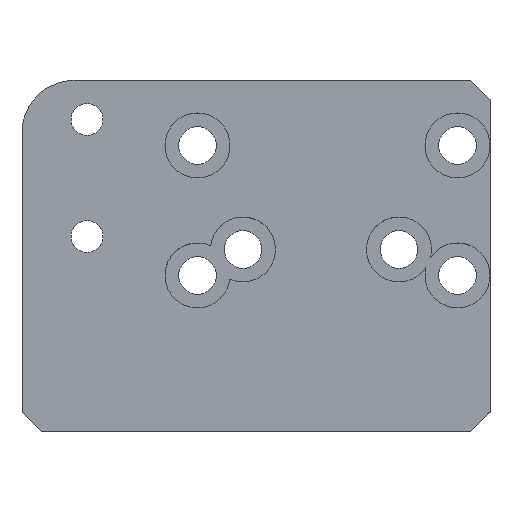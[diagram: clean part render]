
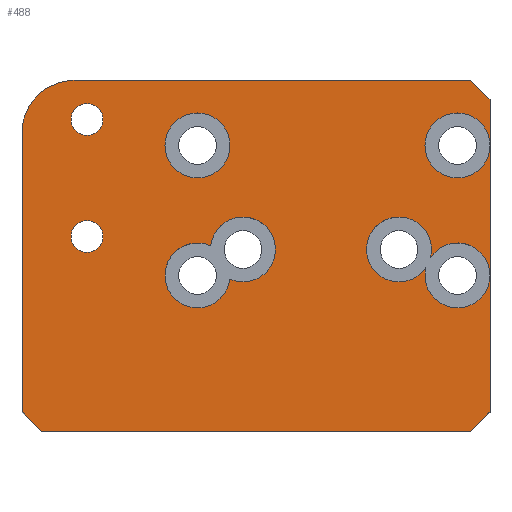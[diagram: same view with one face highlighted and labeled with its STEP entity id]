
A CAD part, top view. The second image highlights one B-rep face of the part: STEP entity #488.
In plain terms, the highlighted planar face has unit normal (0, 0, 1).
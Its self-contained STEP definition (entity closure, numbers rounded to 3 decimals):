
#13=PLANE($,#532);
#28=FACE_BOUND($,#90,.T.);
#29=FACE_BOUND($,#91,.T.);
#30=FACE_BOUND($,#92,.T.);
#31=FACE_BOUND($,#93,.T.);
#32=FACE_BOUND($,#94,.T.);
#90=EDGE_LOOP($,(#358,#359));
#91=EDGE_LOOP($,(#360));
#92=EDGE_LOOP($,(#361));
#93=EDGE_LOOP($,(#362));
#94=EDGE_LOOP($,(#363,#364,#365,#366,#367,#368,#369,#370,#371,#372,#373,
#374,#375,#376));
#138=CIRCLE($,#515,2.5);
#143=CIRCLE($,#522,2.5);
#146=CIRCLE($,#527,2.5);
#149=CIRCLE($,#531,2.5);
#150=CIRCLE($,#533,2.5);
#151=CIRCLE($,#534,2.5);
#152=CIRCLE($,#535,1.23);
#153=CIRCLE($,#536,1.23);
#154=CIRCLE($,#537,2.5);
#155=CIRCLE($,#538,4.);
#175=LINE($,#776,#205);
#176=LINE($,#779,#206);
#177=LINE($,#781,#207);
#178=LINE($,#783,#208);
#179=LINE($,#787,#209);
#180=LINE($,#789,#210);
#181=LINE($,#791,#211);
#182=LINE($,#793,#212);
#183=LINE($,#794,#213);
#205=VECTOR($,#628,10.);
#206=VECTOR($,#631,3.5);
#207=VECTOR($,#632,2.121);
#208=VECTOR($,#633,30.5);
#209=VECTOR($,#636,21.5);
#210=VECTOR($,#637,2.121);
#211=VECTOR($,#638,33.);
#212=VECTOR($,#639,2.121);
#213=VECTOR($,#640,10.5);
#230=VERTEX_POINT($,#731);
#232=VERTEX_POINT($,#734);
#237=VERTEX_POINT($,#746);
#239=VERTEX_POINT($,#750);
#242=VERTEX_POINT($,#759);
#244=VERTEX_POINT($,#769);
#245=VERTEX_POINT($,#771);
#246=VERTEX_POINT($,#773);
#247=VERTEX_POINT($,#775);
#248=VERTEX_POINT($,#778);
#249=VERTEX_POINT($,#780);
#250=VERTEX_POINT($,#782);
#251=VERTEX_POINT($,#784);
#252=VERTEX_POINT($,#786);
#253=VERTEX_POINT($,#788);
#254=VERTEX_POINT($,#790);
#255=VERTEX_POINT($,#792);
#277=EDGE_CURVE($,#232,#230,#138,.T.);
#285=EDGE_CURVE($,#237,#239,#143,.T.);
#288=EDGE_CURVE($,#242,#232,#146,.T.);
#292=EDGE_CURVE($,#230,#242,#149,.T.);
#293=EDGE_CURVE($,#239,#237,#150,.T.);
#294=EDGE_CURVE($,#244,#244,#151,.T.);
#295=EDGE_CURVE($,#245,#245,#152,.T.);
#296=EDGE_CURVE($,#246,#246,#153,.T.);
#297=EDGE_CURVE($,#242,#247,#175,.T.);
#298=EDGE_CURVE($,#247,#247,#154,.T.);
#299=EDGE_CURVE($,#247,#248,#176,.T.);
#300=EDGE_CURVE($,#249,#248,#177,.T.);
#301=EDGE_CURVE($,#249,#250,#178,.T.);
#302=EDGE_CURVE($,#251,#250,#155,.T.);
#303=EDGE_CURVE($,#251,#252,#179,.T.);
#304=EDGE_CURVE($,#253,#252,#180,.T.);
#305=EDGE_CURVE($,#253,#254,#181,.T.);
#306=EDGE_CURVE($,#255,#254,#182,.T.);
#307=EDGE_CURVE($,#255,#242,#183,.T.);
#358=ORIENTED_EDGE($,*,*,#285,.T.);
#359=ORIENTED_EDGE($,*,*,#293,.T.);
#360=ORIENTED_EDGE($,*,*,#294,.T.);
#361=ORIENTED_EDGE($,*,*,#295,.T.);
#362=ORIENTED_EDGE($,*,*,#296,.T.);
#363=ORIENTED_EDGE($,*,*,#277,.T.);
#364=ORIENTED_EDGE($,*,*,#292,.T.);
#365=ORIENTED_EDGE($,*,*,#297,.T.);
#366=ORIENTED_EDGE($,*,*,#298,.T.);
#367=ORIENTED_EDGE($,*,*,#299,.T.);
#368=ORIENTED_EDGE($,*,*,#300,.F.);
#369=ORIENTED_EDGE($,*,*,#301,.T.);
#370=ORIENTED_EDGE($,*,*,#302,.F.);
#371=ORIENTED_EDGE($,*,*,#303,.T.);
#372=ORIENTED_EDGE($,*,*,#304,.F.);
#373=ORIENTED_EDGE($,*,*,#305,.T.);
#374=ORIENTED_EDGE($,*,*,#306,.F.);
#375=ORIENTED_EDGE($,*,*,#307,.T.);
#376=ORIENTED_EDGE($,*,*,#288,.T.);
#488=ADVANCED_FACE($,(#28,#29,#30,#31,#32),#13,.T.);
#515=AXIS2_PLACEMENT_3D($,#735,#580,#581);
#522=AXIS2_PLACEMENT_3D($,#752,#597,#598);
#527=AXIS2_PLACEMENT_3D($,#760,#607,#608);
#531=AXIS2_PLACEMENT_3D($,#766,#616,#617);
#532=AXIS2_PLACEMENT_3D($,#767,#618,#619);
#533=AXIS2_PLACEMENT_3D($,#768,#620,#621);
#534=AXIS2_PLACEMENT_3D($,#770,#622,#623);
#535=AXIS2_PLACEMENT_3D($,#772,#624,#625);
#536=AXIS2_PLACEMENT_3D($,#774,#626,#627);
#537=AXIS2_PLACEMENT_3D($,#777,#629,#630);
#538=AXIS2_PLACEMENT_3D($,#785,#634,#635);
#580=DIRECTION('center_axis',(0.,0.,-1.));
#581=DIRECTION('ref_axis',(1.,0.,0.));
#597=DIRECTION('center_axis',(0.,0.,-1.));
#598=DIRECTION('ref_axis',(1.,0.,0.));
#607=DIRECTION('center_axis',(0.,0.,-1.));
#608=DIRECTION('ref_axis',(1.,0.,0.));
#616=DIRECTION('center_axis',(0.,0.,-1.));
#617=DIRECTION('ref_axis',(1.,0.,0.));
#618=DIRECTION('center_axis',(0.,0.,1.));
#619=DIRECTION('ref_axis',(1.,0.,0.));
#620=DIRECTION('center_axis',(0.,0.,-1.));
#621=DIRECTION('ref_axis',(1.,0.,0.));
#622=DIRECTION('center_axis',(0.,0.,-1.));
#623=DIRECTION('ref_axis',(1.,0.,0.));
#624=DIRECTION('center_axis',(0.,0.,-1.));
#625=DIRECTION('ref_axis',(1.,0.,0.));
#626=DIRECTION('center_axis',(0.,0.,-1.));
#627=DIRECTION('ref_axis',(1.,0.,0.));
#628=DIRECTION($,(0.,1.,0.));
#629=DIRECTION('center_axis',(0.,0.,-1.));
#630=DIRECTION('ref_axis',(1.,0.,0.));
#631=DIRECTION($,(0.,1.,0.));
#632=DIRECTION($,(0.707,-0.707,0.));
#633=DIRECTION($,(-1.,0.,0.));
#634=DIRECTION('center_axis',(0.,0.,-1.));
#635=DIRECTION('ref_axis',(-0.707,0.707,0.));
#636=DIRECTION($,(0.,-1.,0.));
#637=DIRECTION($,(-0.707,0.707,0.));
#638=DIRECTION($,(1.,0.,0.));
#639=DIRECTION($,(-0.707,-0.707,0.));
#640=DIRECTION($,(0.,1.,0.));
#731=CARTESIAN_POINT('',(13.426,-0.104,2.5));
#734=CARTESIAN_POINT('',(13.074,-0.896,2.5));
#735=CARTESIAN_POINT('Origin',(11.,0.5,2.5));
#746=CARTESIAN_POINT('',(-3.484,0.784,2.5));
#750=CARTESIAN_POINT('',(-2.016,-1.784,2.5));
#752=CARTESIAN_POINT('Origin',(-1.,0.5,2.5));
#759=CARTESIAN_POINT('',(18.,-1.5,2.5));
#760=CARTESIAN_POINT('Origin',(15.5,-1.5,2.5));
#766=CARTESIAN_POINT('Origin',(15.5,-1.5,2.5));
#767=CARTESIAN_POINT('Origin',(0.,0.,
2.5));
#768=CARTESIAN_POINT('Origin',(-4.5,-1.5,2.5));
#769=CARTESIAN_POINT('',(-2.,8.5,2.5));
#770=CARTESIAN_POINT('Origin',(-4.5,8.5,2.5));
#771=CARTESIAN_POINT('',(-11.771,10.5,2.5));
#772=CARTESIAN_POINT('Origin',(-13.,10.5,2.5));
#773=CARTESIAN_POINT('',(-11.771,1.5,2.5));
#774=CARTESIAN_POINT('Origin',(-13.,1.5,2.5));
#775=CARTESIAN_POINT('',(18.,8.5,2.5));
#776=CARTESIAN_POINT($,(18.,-13.5,2.5));
#777=CARTESIAN_POINT('Origin',(15.5,8.5,2.5));
#778=CARTESIAN_POINT('',(18.,12.,2.5));
#779=CARTESIAN_POINT($,(18.,-13.5,2.5));
#780=CARTESIAN_POINT('',(16.5,13.5,2.5));
#781=CARTESIAN_POINT($,(16.125,13.875,2.5));
#782=CARTESIAN_POINT('',(-14.,13.5,2.5));
#783=CARTESIAN_POINT($,(18.,13.5,2.5));
#784=CARTESIAN_POINT('',(-18.,9.5,2.5));
#785=CARTESIAN_POINT('Origin',(-14.,9.5,2.5));
#786=CARTESIAN_POINT('',(-18.,-12.,2.5));
#787=CARTESIAN_POINT($,(-18.,13.5,2.5));
#788=CARTESIAN_POINT('',(-16.5,-13.5,2.5));
#789=CARTESIAN_POINT($,(-16.125,-13.875,2.5));
#790=CARTESIAN_POINT('',(16.5,-13.5,2.5));
#791=CARTESIAN_POINT($,(-18.,-13.5,2.5));
#792=CARTESIAN_POINT('',(18.,-12.,2.5));
#793=CARTESIAN_POINT($,(16.125,-13.875,2.5));
#794=CARTESIAN_POINT($,(18.,-13.5,2.5));
